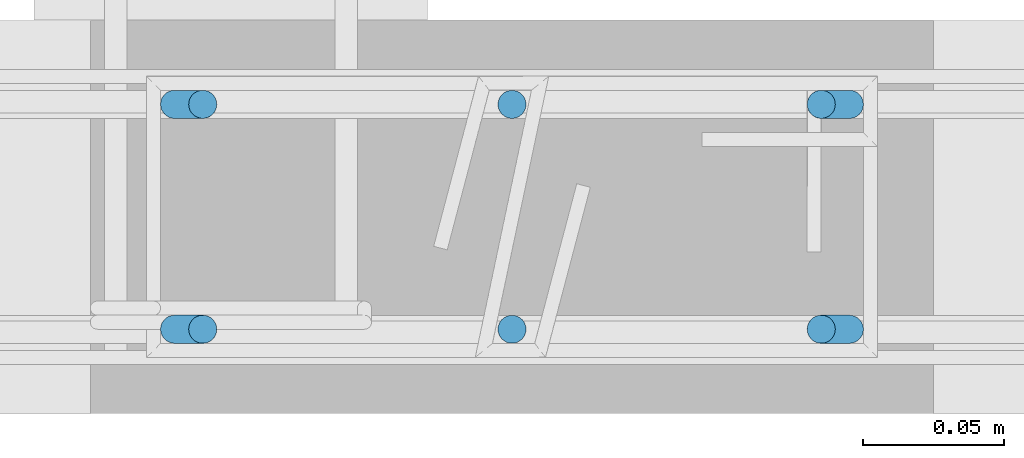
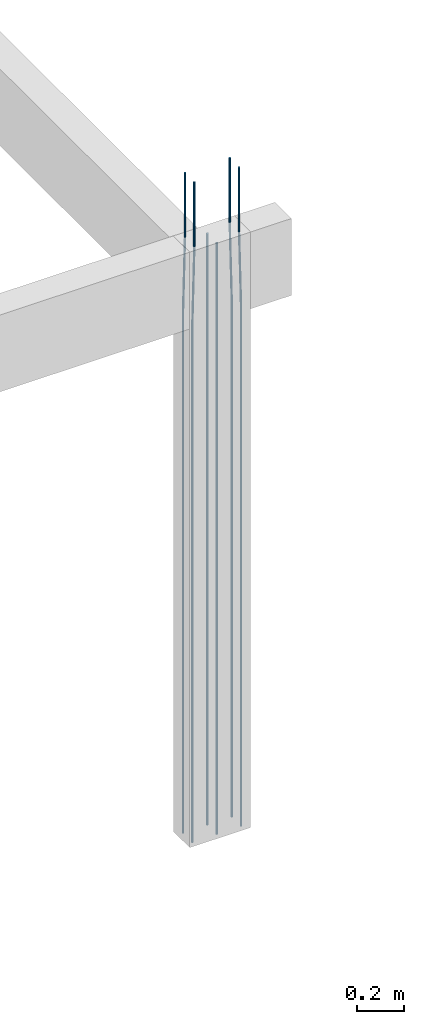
# One storey, part 115 of 236: 6 reinforcing bars.
"""IFC4 building model written with IfcOpenShell, lengths in centimetres."""

from ifc_helpers import new_model, entity, si_unit, derived_unit, frame, origin_with_axes, place, context, project, spatial, element, save


model = new_model("IFC4")

# Units and contexts
model_context = context("Model", 3, precision=1e-05, world=origin_with_axes(), identifier="Body")
ifc_project = project(units=[si_unit("LENGTHUNIT", "METRE", prefix="CENTI"), si_unit("VOLUMEUNIT", "CUBIC_METRE"), si_unit("AREAUNIT", "SQUARE_METRE"), si_unit("POWERUNIT", "WATT"), si_unit("LUMINOUSFLUXUNIT", "LUMEN"), si_unit("ELECTRICCURRENTUNIT", "AMPERE"), si_unit("PRESSUREUNIT", "PASCAL", prefix="KILO"), si_unit("MASSUNIT", "GRAM", prefix="KILO"), si_unit("PLANEANGLEUNIT", "RADIAN"), derived_unit("VOLUMETRICFLOWRATEUNIT", [(si_unit("LENGTHUNIT", "METRE"), 3), (si_unit("TIMEUNIT", "SECOND"), -1)])], contexts=[model_context])

# Site, building, storey
site_placement = place(None, frame((-4000.0, 0.0, 0.0), z_axis=(0.0, 0.0, 1.0), x_axis=(1.0, 0.0, 0.0)))
site = spatial("IfcSite", under=ifc_project, at=site_placement, Name="PADRÃO")
building_placement = place(site_placement, frame((0.0, 0.0, -14.0)))
building = spatial("IfcBuilding", under=site, at=building_placement, Name="CRECHE PRÉ-ESCOLA TIPO 2")
placement_1 = place(building_placement, origin_with_axes())
placement_2 = place(placement_1, frame((0.0, 0.0, 30.0), z_axis=(0.0, 0.0, 1.0), x_axis=(1.0, 0.0, 0.0)))
storey_placement = place(placement_2, frame((0.0, 0.0, 310.0), z_axis=(0.0, 0.0, 1.0), x_axis=(1.0, 0.0, 0.0)))
storey = spatial("IfcBuildingStorey", under=building, at=storey_placement, Name="TERREO", CompositionType="ELEMENT", Elevation=326.0)

# Reinforcing bars
reinforcing_bar_1_placement = place(storey_placement, frame((3364.5, 2681.02, 33.3573001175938), z_axis=(0.0, 0.0, 1.0), x_axis=(1.0, 0.0, 0.0)))
element("IfcReinforcingBar", 1, at=reinforcing_bar_1_placement, inside=storey, Name="P69 - Longitudinal", BarLength=0.0, CrossSectionArea=7.853981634e-05, NominalDiameter=1.0, PredefinedType="MAIN", context=model_context, shape_type="AdvancedSweptSolid", body=[
    entity("IfcSweptDiskSolid", entity("IfcCompositeCurve", [entity("IfcCompositeCurveSegment", "CONTINUOUS", True, entity("IfcPolyline", [entity("IfcCartesianPoint", [-0.5, 0.0, -343.357300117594]), entity("IfcCartesianPoint", [-0.5, 0.0, -73.3573001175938])])), entity("IfcCompositeCurveSegment", "CONTINUOUS", True, entity("IfcPolyline", [entity("IfcCartesianPoint", [-0.5, 0.0, -73.3573001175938]), entity("IfcCartesianPoint", [0.5, 0.0, -33.3573001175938])])), entity("IfcCompositeCurveSegment", "CONTINUOUS", True, entity("IfcPolyline", [entity("IfcCartesianPoint", [0.5, 0.0, -33.3573001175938]), entity("IfcCartesianPoint", [0.5, 0.0, 0.0])]))], False), 0.5),
])
reinforcing_bar_2_placement = place(storey_placement, frame((3387.5, 2689.02, 33.3573001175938), z_axis=(0.0, 0.0, 1.0), x_axis=(1.0, 0.0, 0.0)))
element("IfcReinforcingBar", 2, at=reinforcing_bar_2_placement, inside=storey, Name="P69 - Longitudinal", BarLength=0.0, CrossSectionArea=7.853981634e-05, NominalDiameter=1.0, PredefinedType="MAIN", context=model_context, shape_type="AdvancedSweptSolid", body=[
    entity("IfcSweptDiskSolid", entity("IfcCompositeCurve", [entity("IfcCompositeCurveSegment", "CONTINUOUS", True, entity("IfcPolyline", [entity("IfcCartesianPoint", [0.5, 0.0, -343.357300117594]), entity("IfcCartesianPoint", [0.5, 0.0, -73.3573001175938])])), entity("IfcCompositeCurveSegment", "CONTINUOUS", True, entity("IfcPolyline", [entity("IfcCartesianPoint", [0.5, 0.0, -73.3573001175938]), entity("IfcCartesianPoint", [-0.5, 0.0, -33.3573001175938])])), entity("IfcCompositeCurveSegment", "CONTINUOUS", True, entity("IfcPolyline", [entity("IfcCartesianPoint", [-0.5, 0.0, -33.3573001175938]), entity("IfcCartesianPoint", [-0.5, 0.0, 0.0])]))], False), 0.5),
])
reinforcing_bar_3_placement = place(storey_placement, frame((3376.0, 2689.02, -2.0), z_axis=(0.0, 0.0, 1.0), x_axis=(1.0, 0.0, 0.0)))
element("IfcReinforcingBar", 3, at=reinforcing_bar_3_placement, inside=storey, Name="P69 - Longitudinal", BarLength=0.0, CrossSectionArea=7.853981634e-05, NominalDiameter=1.0, PredefinedType="MAIN", context=model_context, shape_type="AdvancedSweptSolid", body=[
    entity("IfcSweptDiskSolid", entity("IfcCompositeCurve", [entity("IfcCompositeCurveSegment", "CONTINUOUS", True, entity("IfcPolyline", [entity("IfcCartesianPoint", [0.0, 0.0, -308.0]), entity("IfcCartesianPoint", [0.0, 0.0, 0.0])]))], False), 0.5),
])
reinforcing_bar_4_placement = place(storey_placement, frame((3364.5, 2689.02, 33.3573001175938), z_axis=(0.0, 0.0, 1.0), x_axis=(1.0, 0.0, 0.0)))
element("IfcReinforcingBar", 4, at=reinforcing_bar_4_placement, inside=storey, Name="P69 - Longitudinal", BarLength=0.0, CrossSectionArea=7.853981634e-05, NominalDiameter=1.0, PredefinedType="MAIN", context=model_context, shape_type="AdvancedSweptSolid", body=[
    entity("IfcSweptDiskSolid", entity("IfcCompositeCurve", [entity("IfcCompositeCurveSegment", "CONTINUOUS", True, entity("IfcPolyline", [entity("IfcCartesianPoint", [-0.5, 0.0, -343.357300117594]), entity("IfcCartesianPoint", [-0.5, 0.0, -73.3573001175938])])), entity("IfcCompositeCurveSegment", "CONTINUOUS", True, entity("IfcPolyline", [entity("IfcCartesianPoint", [-0.5, 0.0, -73.3573001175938]), entity("IfcCartesianPoint", [0.5, 0.0, -33.3573001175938])])), entity("IfcCompositeCurveSegment", "CONTINUOUS", True, entity("IfcPolyline", [entity("IfcCartesianPoint", [0.5, 0.0, -33.3573001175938]), entity("IfcCartesianPoint", [0.5, 0.0, 0.0])]))], False), 0.5),
])
reinforcing_bar_5_placement = place(storey_placement, frame((3387.5, 2681.02, 33.3573001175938), z_axis=(0.0, 0.0, 1.0), x_axis=(1.0, 0.0, 0.0)))
element("IfcReinforcingBar", 5, at=reinforcing_bar_5_placement, inside=storey, Name="P69 - Longitudinal", BarLength=0.0, CrossSectionArea=7.853981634e-05, NominalDiameter=1.0, PredefinedType="MAIN", context=model_context, shape_type="AdvancedSweptSolid", body=[
    entity("IfcSweptDiskSolid", entity("IfcCompositeCurve", [entity("IfcCompositeCurveSegment", "CONTINUOUS", True, entity("IfcPolyline", [entity("IfcCartesianPoint", [0.5, 0.0, -343.357300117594]), entity("IfcCartesianPoint", [0.5, 0.0, -73.3573001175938])])), entity("IfcCompositeCurveSegment", "CONTINUOUS", True, entity("IfcPolyline", [entity("IfcCartesianPoint", [0.5, 0.0, -73.3573001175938]), entity("IfcCartesianPoint", [-0.5, 0.0, -33.3573001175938])])), entity("IfcCompositeCurveSegment", "CONTINUOUS", True, entity("IfcPolyline", [entity("IfcCartesianPoint", [-0.5, 0.0, -33.3573001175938]), entity("IfcCartesianPoint", [-0.5, 0.0, 0.0])]))], False), 0.5),
])
reinforcing_bar_6_placement = place(storey_placement, frame((3376.0, 2681.02, -2.0), z_axis=(0.0, 0.0, 1.0), x_axis=(1.0, 0.0, 0.0)))
element("IfcReinforcingBar", 6, at=reinforcing_bar_6_placement, inside=storey, Name="P69 - Longitudinal", BarLength=0.0, CrossSectionArea=7.853981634e-05, NominalDiameter=1.0, PredefinedType="MAIN", context=model_context, shape_type="AdvancedSweptSolid", body=[
    entity("IfcSweptDiskSolid", entity("IfcCompositeCurve", [entity("IfcCompositeCurveSegment", "CONTINUOUS", True, entity("IfcPolyline", [entity("IfcCartesianPoint", [0.0, 0.0, -308.0]), entity("IfcCartesianPoint", [0.0, 0.0, 0.0])]))], False), 0.5),
])

save(model, "model.ifc")
